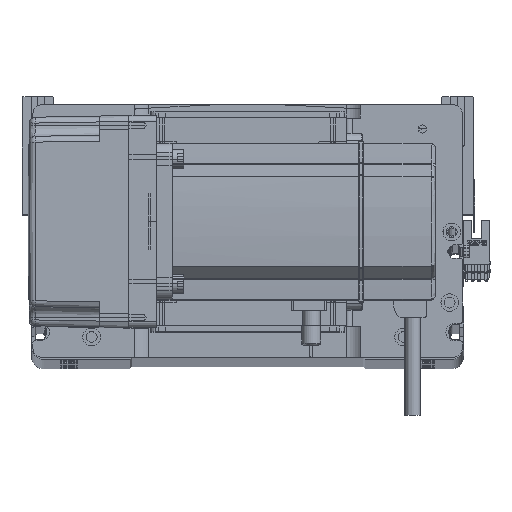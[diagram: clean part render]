
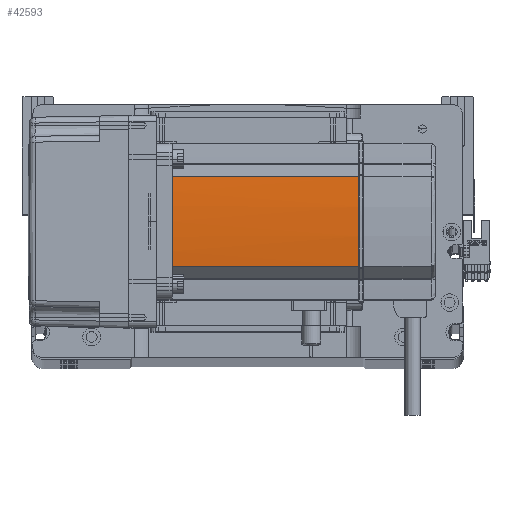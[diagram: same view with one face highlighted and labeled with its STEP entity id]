
A CAD part, top view. The second image highlights one B-rep face of the part: STEP entity #42593.
In plain terms, the highlighted cylindrical face has radius 270 mm (diameter 540 mm), a partial arc.
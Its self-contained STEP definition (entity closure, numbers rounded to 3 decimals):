
#380 = ORIENTED_EDGE ( 'NONE', *, *, #22543, .F. ) ;
#1978 = ORIENTED_EDGE ( 'NONE', *, *, #54195, .T. ) ;
#4179 = CARTESIAN_POINT ( 'NONE',  ( 40., 0.042, 134. ) ) ;
#5048 = CIRCLE ( 'NONE', #20782, 270. ) ;
#6638 = ORIENTED_EDGE ( 'NONE', *, *, #33364, .T. ) ;
#7035 = VERTEX_POINT ( 'NONE', #32637 ) ;
#7393 = CARTESIAN_POINT ( 'NONE',  ( -230., 0., 58. ) ) ;
#7700 = AXIS2_PLACEMENT_3D ( 'NONE', #7393, #21355, #21160 ) ;
#8271 = B_SPLINE_CURVE_WITH_KNOTS ( 'NONE', 3,
 ( #44735, #35386, #4179, #21996 ),
 .UNSPECIFIED., .F., .F.,
 ( 4, 4 ),
 ( 0., 1. ),
 .UNSPECIFIED. ) ;
#8346 = VECTOR ( 'NONE', #47935, 1000. ) ;
#9831 = EDGE_CURVE ( 'NONE', #14004, #25622, #8271, .T. ) ;
#12600 = CARTESIAN_POINT ( 'NONE',  ( -230., 0., 39. ) ) ;
#13899 = CARTESIAN_POINT ( 'NONE',  ( 39.042, 22.724, 58. ) ) ;
#14004 = VERTEX_POINT ( 'NONE', #35333 ) ;
#17308 = AXIS2_PLACEMENT_3D ( 'NONE', #51367, #20252, #19874 ) ;
#18224 = CARTESIAN_POINT ( 'NONE',  ( -230., 0., 134. ) ) ;
#19874 = DIRECTION ( 'NONE',  ( -1., 0., 0. ) ) ;
#20252 = DIRECTION ( 'NONE',  ( 0., 0., -1. ) ) ;
#20782 = AXIS2_PLACEMENT_3D ( 'NONE', #18224, #53623, #31415 ) ;
#21160 = DIRECTION ( 'NONE',  ( -1., 0., 0. ) ) ;
#21355 = DIRECTION ( 'NONE',  ( 0., 0., -1. ) ) ;
#21724 = LINE ( 'NONE', #13899, #39811 ) ;
#21949 = CYLINDRICAL_SURFACE ( 'NONE', #7700, 270. ) ;
#21996 = CARTESIAN_POINT ( 'NONE',  ( 40., 0.127, 134. ) ) ;
#22265 = EDGE_CURVE ( 'NONE', #51049, #7035, #21724, .T. ) ;
#22543 = EDGE_CURVE ( 'NONE', #51049, #34962, #27202, .T. ) ;
#22984 = LINE ( 'NONE', #56658, #8346 ) ;
#24628 = CARTESIAN_POINT ( 'NONE',  ( 39.042, -22.724, 134. ) ) ;
#25622 = VERTEX_POINT ( 'NONE', #51473 ) ;
#25801 = DIRECTION ( 'NONE',  ( -1., 0., 0. ) ) ;
#26770 = ORIENTED_EDGE ( 'NONE', *, *, #48519, .T. ) ;
#27202 = CIRCLE ( 'NONE', #37031, 270. ) ;
#27304 = ORIENTED_EDGE ( 'NONE', *, *, #22265, .T. ) ;
#30802 = DIRECTION ( 'NONE',  ( 0., 0., -1. ) ) ;
#31415 = DIRECTION ( 'NONE',  ( -1., 0., 0. ) ) ;
#31627 = VERTEX_POINT ( 'NONE', #24628 ) ;
#32637 = CARTESIAN_POINT ( 'NONE',  ( 39.042, 22.724, 134. ) ) ;
#33364 = EDGE_CURVE ( 'NONE', #31627, #34962, #22984, .T. ) ;
#34962 = VERTEX_POINT ( 'NONE', #47207 ) ;
#35333 = CARTESIAN_POINT ( 'NONE',  ( 40., -0.127, 134. ) ) ;
#35386 = CARTESIAN_POINT ( 'NONE',  ( 40., -0.042, 134. ) ) ;
#37031 = AXIS2_PLACEMENT_3D ( 'NONE', #12600, #30802, #25801 ) ;
#38040 = ORIENTED_EDGE ( 'NONE', *, *, #9831, .F. ) ;
#39811 = VECTOR ( 'NONE', #55890, 1000. ) ;
#42593 = ADVANCED_FACE ( 'NONE', ( #56746 ), #21949, .T. ) ;
#44735 = CARTESIAN_POINT ( 'NONE',  ( 40., -0.127, 134. ) ) ;
#47207 = CARTESIAN_POINT ( 'NONE',  ( 39.042, -22.724, 39. ) ) ;
#47935 = DIRECTION ( 'NONE',  ( 0., 0., -1. ) ) ;
#48519 = EDGE_CURVE ( 'NONE', #14004, #31627, #52685, .T. ) ;
#51049 = VERTEX_POINT ( 'NONE', #56862 ) ;
#51367 = CARTESIAN_POINT ( 'NONE',  ( -230., 0., 134. ) ) ;
#51473 = CARTESIAN_POINT ( 'NONE',  ( 40., 0.127, 134. ) ) ;
#52685 = CIRCLE ( 'NONE', #17308, 270. ) ;
#53623 = DIRECTION ( 'NONE',  ( 0., 0., -1. ) ) ;
#54195 = EDGE_CURVE ( 'NONE', #7035, #25622, #5048, .T. ) ;
#55890 = DIRECTION ( 'NONE',  ( 0., 0., 1. ) ) ;
#56503 = EDGE_LOOP ( 'NONE', ( #6638, #380, #27304, #1978, #38040, #26770 ) ) ;
#56658 = CARTESIAN_POINT ( 'NONE',  ( 39.042, -22.724, 58. ) ) ;
#56746 = FACE_OUTER_BOUND ( 'NONE', #56503, .T. ) ;
#56862 = CARTESIAN_POINT ( 'NONE',  ( 39.042, 22.724, 39. ) ) ;
